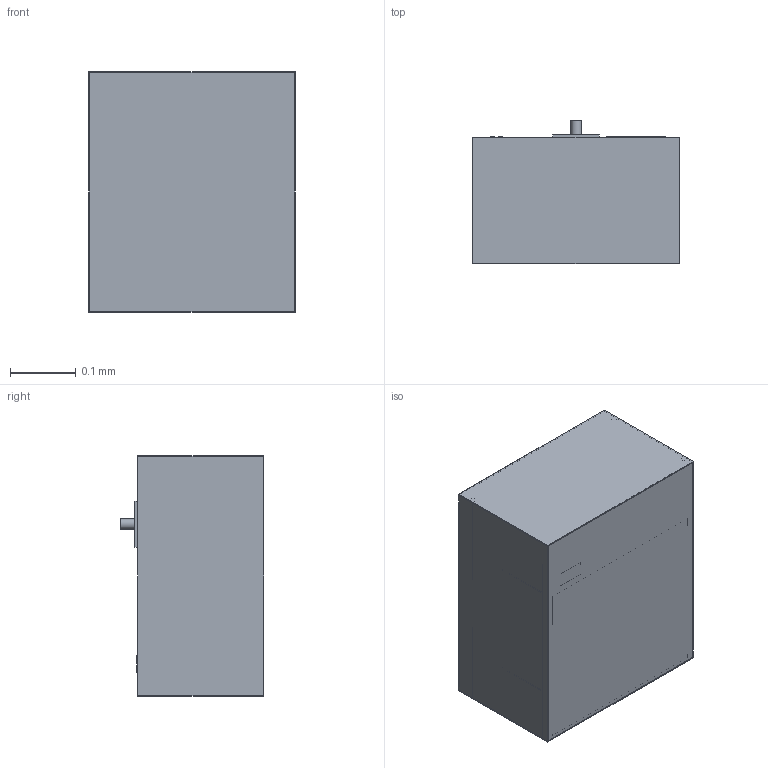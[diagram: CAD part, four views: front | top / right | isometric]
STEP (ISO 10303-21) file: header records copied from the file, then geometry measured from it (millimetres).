
FILE_DESCRIPTION(('Open CASCADE Model'),'2;1');
FILE_NAME('Open CASCADE Shape Model','2026-10-04T13:16:28',('Author'),( 'Open CASCADE'),'Open CASCADE STEP processor 7.9','Open CASCADE 7.9' ,'Unknown');
FILE_SCHEMA(('AUTOMOTIVE_DESIGN { 1 0 10303 214 1 1 1 1 }'));
Length unit declared in the file: millimetre
Products named in the file (130): MOD-cell-mechanobiology; fluid__medium_105_mL; fluid__medium_port; fluid__wash_105_mL; fluid__wash_port; fluid__4_PFA_105_mL; fluid__4_PFA_port; fluid__PBS_105_mL; fluid__PBS_port; fluid__RNA_stabiliser_105_mL; fluid__RNA_stabiliser_port; fluid__waste_bag_empty_at_launch_315_mL_capacity_under_the_reagent_
bags; fluid__waste_bag_port; sample__m80_C_passive_cryo_cassette_vacuum_insulated_body; sample__cryo_cassette_cap; imaging__microscope_base_optics_filter_cubes_camera; imaging__objective; imaging__stage_post_1; imaging__stage_post_2; imaging__stage_post_3; imaging__stage_post_4; imaging__XY_stage_frame_travel_96_5_x_57_9_mm_every_well_over_the_
objective; imaging__stage_carriage; imaging__X_stepper; imaging__Y_stepper; imaging__illumination_column; imaging__illumination_arm; imaging__arm_to_head; imaging__LED_head_transmitted_light; sample__cassette_24_wells_SBS_footprint_19_3_mm_pitch; sample__culture_in_the_wells; sample__cassette_lid_sealed_and_gas_permeable; sample__cassette_fluid_port_1; sample__cassette_fluid_port_2; pump__fluid_manifold; pump__micro_pump_1; pump__micro_pump_2; pump__valve_1; pump__valve_2; pump__valve_3 ...
Assembly tree (129 placements, depth 2):
  MOD-cell-mechanobiology
    fluid__medium_105_mL
    fluid__medium_port
    fluid__wash_105_mL
    fluid__wash_port
    fluid__4_PFA_105_mL
    fluid__4_PFA_port
    fluid__PBS_105_mL
    fluid__PBS_port
    fluid__RNA_stabiliser_105_mL
    fluid__RNA_stabiliser_port
    fluid__waste_bag_empty_at_launch_315_mL_capacity_under_the_reagent_
bags
    fluid__waste_bag_port
    sample__m80_C_passive_cryo_cassette_vacuum_insulated_body
    sample__cryo_cassette_cap
    imaging__microscope_base_optics_filter_cubes_camera
    imaging__objective
    imaging__stage_post_1
    imaging__stage_post_2
    imaging__stage_post_3
    imaging__stage_post_4
    imaging__XY_stage_frame_travel_96_5_x_57_9_mm_every_well_over_the_
objective
    imaging__stage_carriage
    imaging__X_stepper
    imaging__Y_stepper
    imaging__illumination_column
    imaging__illumination_arm
    imaging__arm_to_head
    imaging__LED_head_transmitted_light
    sample__cassette_24_wells_SBS_footprint_19_3_mm_pitch
    sample__culture_in_the_wells
    sample__cassette_lid_sealed_and_gas_permeable
    sample__cassette_fluid_port_1
    sample__cassette_fluid_port_2
    pump__fluid_manifold
    pump__micro_pump_1
    pump__micro_pump_2
    pump__valve_1
    pump__valve_2
    pump__valve_3
    pump__valve_4
    pump__manifold_inlet
    pump__manifold_outlet
    electronics__controller_enclosure_boards_data_storage
    electronics__connector_1
    electronics__connector_2
    housing__bottom_panel
    housing__top_panel
    housing__side_panel_L
    housing__side_panel_R
    housing__back_panel_bay_interface
    housing__front_panel
    housing__corner_post_1
    housing__corner_post_2
    housing__corner_post_3
    housing__corner_post_4
    housing__shelf_1
    housing__shelf_2
    thermal__cold_wall_to_the_bay_s_thermoelectric_block
    interface__blind_mate_connector_power_data_video
Bounding box: 0.31 x 0.22 x 0.37 mm (x, y, z)
Volume: 0 mm3; surface area: 2 mm2
Topology: 153 solids, 153 shells, 641 faces, 933 edges, 622 vertices
Faces by surface type: plane 474, cylinder 167
Full cylindrical faces by diameter (mm): 0.003 x48, 0.005 x26, 0.006 x4, 0.009 x4, 0.01 x4, 0.012 x2, 0.015 x24, 0.016 x25, 0.02 x2, 0.022 x1, 0.028 x1, 0.078 x1, 0.08 x1
Entity records: 29357 total; most frequent: DIRECTION 4651, CARTESIAN_POINT 4336, LINE 2131, VECTOR 2131, ORIENTED_EDGE 1866, PCURVE 1866, DEFINITIONAL_REPRESENTATION 1866, AXIS2_PLACEMENT_3D 1105
